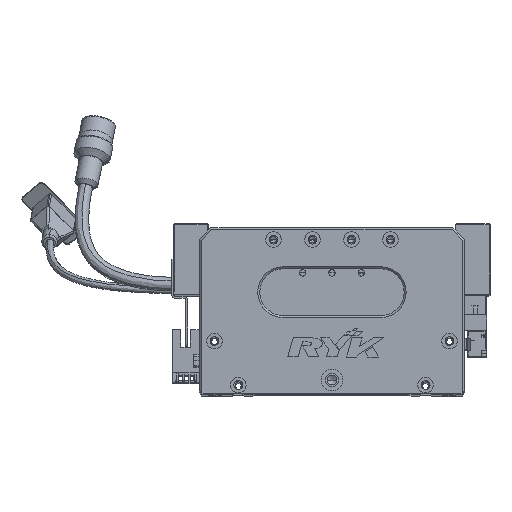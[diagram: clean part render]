
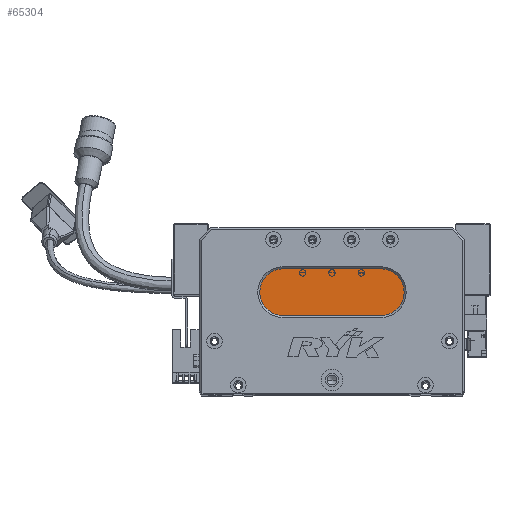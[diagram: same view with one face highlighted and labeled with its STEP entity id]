
A CAD part, top view. The second image highlights one B-rep face of the part: STEP entity #65304.
In plain terms, the highlighted planar face has unit normal (0, 0, 1) as drawn and (0, 0, -1) by its records, which use the part's own axes.
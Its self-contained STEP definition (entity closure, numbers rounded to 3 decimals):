
#835 = DIRECTION ( 'NONE',  ( -1., 0., 0. ) ) ;
#4467 = AXIS2_PLACEMENT_3D ( 'NONE', #28655, #10900, #62739 ) ;
#5289 = CARTESIAN_POINT ( 'NONE',  ( 93., 52., 13. ) ) ;
#9053 = ORIENTED_EDGE ( 'NONE', *, *, #51394, .T. ) ;
#9846 = DIRECTION ( 'NONE',  ( 1., 0., 0. ) ) ;
#10744 = DIRECTION ( 'NONE',  ( -1., 0., 0. ) ) ;
#10900 = DIRECTION ( 'NONE',  ( 0., 0., -1. ) ) ;
#12571 = EDGE_CURVE ( 'NONE', #62069, #57782, #67818, .T. ) ;
#13586 = CARTESIAN_POINT ( 'NONE',  ( 43., 64., 13. ) ) ;
#14617 = CIRCLE ( 'NONE', #40041, 12. ) ;
#14932 = ORIENTED_EDGE ( 'NONE', *, *, #22238, .T. ) ;
#15233 = LINE ( 'NONE', #65656, #45265 ) ;
#15483 = CARTESIAN_POINT ( 'NONE',  ( 93., 64., 13. ) ) ;
#17525 = ORIENTED_EDGE ( 'NONE', *, *, #64622, .T. ) ;
#18510 = ORIENTED_EDGE ( 'NONE', *, *, #33281, .T. ) ;
#20429 = DIRECTION ( 'NONE',  ( -1., 0., 0. ) ) ;
#21027 = AXIS2_PLACEMENT_3D ( 'NONE', #71048, #66137, #20429 ) ;
#22238 = EDGE_CURVE ( 'NONE', #30355, #62108, #38849, .T. ) ;
#28655 = CARTESIAN_POINT ( 'NONE',  ( 43., 52., 13. ) ) ;
#30355 = VERTEX_POINT ( 'NONE', #47652 ) ;
#33281 = EDGE_CURVE ( 'NONE', #62108, #51173, #15233, .T. ) ;
#35983 = DIRECTION ( 'NONE',  ( 0., 0., -1. ) ) ;
#38464 = DIRECTION ( 'NONE',  ( 0., 0., -1. ) ) ;
#38849 = CIRCLE ( 'NONE', #4467, 12. ) ;
#39712 = CIRCLE ( 'NONE', #21027, 12. ) ;
#40041 = AXIS2_PLACEMENT_3D ( 'NONE', #51490, #35983, #835 ) ;
#40564 = AXIS2_PLACEMENT_3D ( 'NONE', #5289, #38464, #10744 ) ;
#44827 = FACE_OUTER_BOUND ( 'NONE', #68150, .T. ) ;
#45265 = VECTOR ( 'NONE', #9846, 1000. ) ;
#47652 = CARTESIAN_POINT ( 'NONE',  ( 31., 52., 13. ) ) ;
#48088 = DIRECTION ( 'NONE',  ( -1., 0., 0. ) ) ;
#51173 = VERTEX_POINT ( 'NONE', #15483 ) ;
#51394 = EDGE_CURVE ( 'NONE', #57782, #30355, #14617, .T. ) ;
#51490 = CARTESIAN_POINT ( 'NONE',  ( 43., 52., 13. ) ) ;
#51932 = VECTOR ( 'NONE', #48088, 1000. ) ;
#57782 = VERTEX_POINT ( 'NONE', #62925 ) ;
#61136 = PLANE ( 'NONE',  #40564 ) ;
#62069 = VERTEX_POINT ( 'NONE', #63717 ) ;
#62108 = VERTEX_POINT ( 'NONE', #13586 ) ;
#62739 = DIRECTION ( 'NONE',  ( -1., 0., 0. ) ) ;
#62925 = CARTESIAN_POINT ( 'NONE',  ( 43., 40., 13. ) ) ;
#63717 = CARTESIAN_POINT ( 'NONE',  ( 93., 40., 13. ) ) ;
#64622 = EDGE_CURVE ( 'NONE', #51173, #62069, #39712, .T. ) ;
#65304 = ADVANCED_FACE ( 'NONE', ( #44827 ), #61136, .T. ) ;
#65656 = CARTESIAN_POINT ( 'NONE',  ( 93., 64., 13. ) ) ;
#66137 = DIRECTION ( 'NONE',  ( 0., 0., -1. ) ) ;
#67818 = LINE ( 'NONE', #71755, #51932 ) ;
#68150 = EDGE_LOOP ( 'NONE', ( #17525, #71746, #9053, #14932, #18510 ) ) ;
#71048 = CARTESIAN_POINT ( 'NONE',  ( 93., 52., 13. ) ) ;
#71746 = ORIENTED_EDGE ( 'NONE', *, *, #12571, .T. ) ;
#71755 = CARTESIAN_POINT ( 'NONE',  ( 93., 40., 13. ) ) ;
